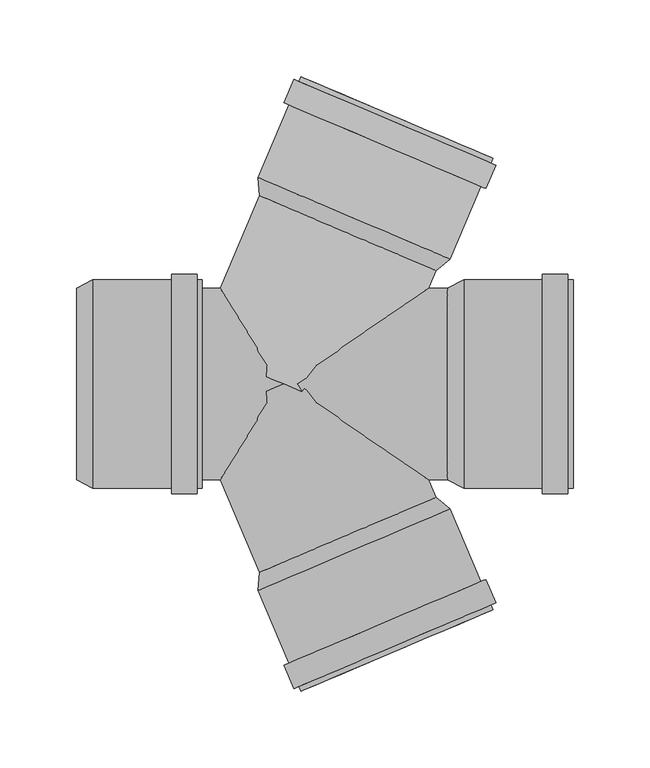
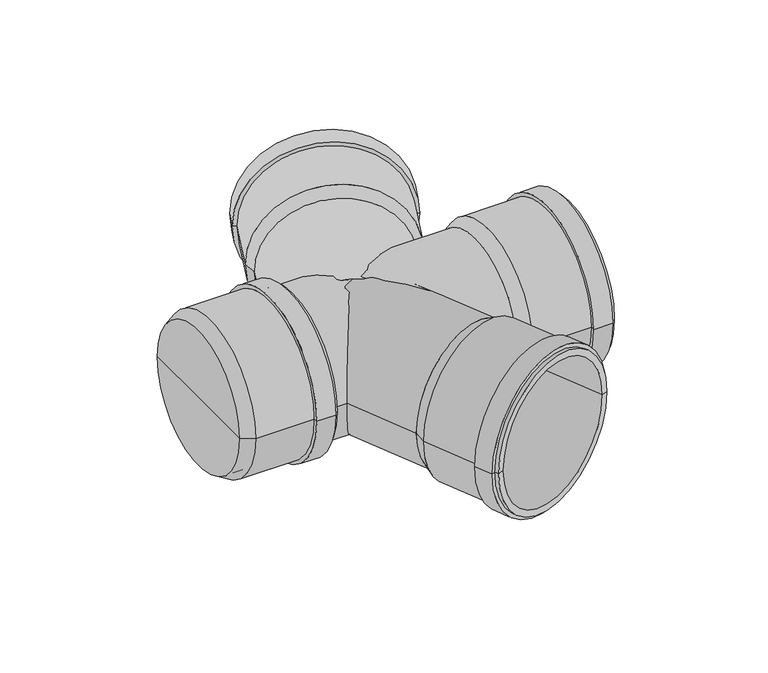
"""IFC4 building model written with IfcOpenShell, lengths in millimetres: pipe fitting geometry, pf_HTDA : pf_HTDA."""

from ifc_helpers import new_model, si_unit, point, frame, origin, origin_2d, place, context, project, spatial, polyline, circle_curve, trimmed, segment, composite_curve, outline, extrude, source, transform, mapped, element, save
from ifc_brep_helpers import plane_surface, cylinder_surface, revolved_surface, advanced_brep


def pipe_fitting_2327c108(model_context):
    return source(origin(), model_context, "Body", "SolidModel", [
        advanced_brep(
        [(99.300711, 73.9812733, 0.0), (-15.7623957, 122.8226644, 0.0), (-16.814546, 134.6760596, 0.0), (108.558215, 81.4584799, 0.0), (41.7691576, 98.4019688, 0.0), (136.4954907, 147.274577, 0.0), (11.1227297, 200.4921567, 0.0), (16.2775568, 198.3040623, 0.0), (131.3406635, 149.4626713, 0.0), (135.1670049, 144.1448605, 0.0), (9.7942438, 197.3624402, 0.0), (138.2967214, 142.8163746, 0.0), (6.6645273, 198.690926, 0.0), (131.8105846, 127.5359941, 0.0), (0.1783906, 183.4105454, 0.0), (128.6808681, 128.8644799, 0.0), (3.3081071, 182.0820596, 0.0), (103.4033878, 83.6465743, 0.0), (-11.6597189, 132.4879653, 0.0), (45.8718345, 108.0672698, 0.0)],
        [
            (0, 1, circle_curve(frame((41.7691576, 98.4019688, 0.0), z_axis=(0.39073112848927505, 0.9205048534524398, 0.0), x_axis=(-0.9205048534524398, 0.39073112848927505, 0.0)), 62.5)),
            (1, 2),
            (2, 3, circle_curve(frame((45.8718345, 108.0672698, 0.0), z_axis=(-0.39073112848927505, -0.9205048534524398, 0.0), x_axis=(-0.9205048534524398, 0.39073112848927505, 0.0)), 68.1)),
            (3, 0),
            (1, 0, circle_curve(frame((41.7691576, 98.4019688, 0.0), z_axis=(0.39073112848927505, 0.9205048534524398, 0.0), x_axis=(-0.9205048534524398, 0.39073112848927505, 0.0)), 62.5)),
            (3, 2, circle_curve(frame((45.8718345, 108.0672698, 0.0), z_axis=(-0.39073112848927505, -0.9205048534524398, 0.0), x_axis=(-0.9205048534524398, 0.39073112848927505, 0.0)), 68.1)),
            (4, 1),
            (0, 4),
            (5, 6, circle_curve(frame((73.8091102, 173.8833668, 0.0), z_axis=(0.39073112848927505, 0.9205048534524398, 0.0), x_axis=(-0.9205048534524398, 0.39073112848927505, 0.0)), 68.1)),
            (6, 7),
            (7, 8, circle_curve(frame((73.8091102, 173.8833668, 0.0), z_axis=(-0.39073112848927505, -0.9205048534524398, 0.0), x_axis=(-0.9205048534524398, 0.39073112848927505, 0.0)), 62.5)),
            (8, 5),
            (6, 5, circle_curve(frame((73.8091102, 173.8833668, 0.0), z_axis=(0.39073112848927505, 0.9205048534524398, 0.0), x_axis=(-0.9205048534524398, 0.39073112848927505, 0.0)), 68.1)),
            (8, 7, circle_curve(frame((73.8091102, 173.8833668, 0.0), z_axis=(-0.39073112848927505, -0.9205048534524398, 0.0), x_axis=(-0.9205048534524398, 0.39073112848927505, 0.0)), 62.5)),
            (9, 10, circle_curve(frame((72.4806243, 170.7536503, 0.0), z_axis=(0.39073112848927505, 0.9205048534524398, 0.0), x_axis=(-0.9205048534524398, 0.39073112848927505, 0.0)), 68.1)),
            (10, 6),
            (5, 9),
            (10, 9, circle_curve(frame((72.4806243, 170.7536503, 0.0), z_axis=(0.39073112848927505, 0.9205048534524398, 0.0), x_axis=(-0.9205048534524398, 0.39073112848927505, 0.0)), 68.1)),
            (11, 12, circle_curve(frame((72.4806243, 170.7536503, 0.0), z_axis=(0.39073112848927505, 0.9205048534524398, 0.0), x_axis=(-0.9205048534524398, 0.39073112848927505, 0.0)), 71.5)),
            (12, 10),
            (9, 11),
            (12, 11, circle_curve(frame((72.4806243, 170.7536503, 0.0), z_axis=(0.39073112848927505, 0.9205048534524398, 0.0), x_axis=(-0.9205048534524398, 0.39073112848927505, 0.0)), 71.5)),
            (13, 14, circle_curve(frame((65.9944876, 155.4732697, 0.0), z_axis=(0.39073112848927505, 0.9205048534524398, 0.0), x_axis=(-0.9205048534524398, 0.39073112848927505, 0.0)), 71.5)),
            (14, 12),
            (11, 13),
            (14, 13, circle_curve(frame((65.9944876, 155.4732697, 0.0), z_axis=(0.39073112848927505, 0.9205048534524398, 0.0), x_axis=(-0.9205048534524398, 0.39073112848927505, 0.0)), 71.5)),
            (15, 16, circle_curve(frame((65.9944876, 155.4732697, 0.0), z_axis=(0.39073112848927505, 0.9205048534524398, 0.0), x_axis=(-0.9205048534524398, 0.39073112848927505, 0.0)), 68.1)),
            (16, 14),
            (13, 15),
            (16, 15, circle_curve(frame((65.9944876, 155.4732697, 0.0), z_axis=(0.39073112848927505, 0.9205048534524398, 0.0), x_axis=(-0.9205048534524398, 0.39073112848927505, 0.0)), 68.1)),
            (2, 16),
            (15, 3),
            (17, 18, circle_curve(frame((45.8718345, 108.0672698, 0.0), z_axis=(0.39073112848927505, 0.9205048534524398, 0.0), x_axis=(-0.9205048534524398, 0.39073112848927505, 0.0)), 62.5)),
            (18, 19),
            (19, 17),
            (18, 17, circle_curve(frame((45.8718345, 108.0672698, 0.0), z_axis=(0.39073112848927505, 0.9205048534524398, 0.0), x_axis=(-0.9205048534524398, 0.39073112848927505, 0.0)), 62.5)),
            (7, 18),
            (17, 8),
        ],
        [
            revolved_surface(polyline([(-16.814546, 134.6760596, 0.0), (-15.7623957, 122.8226644, 0.0)]), (41.7691576, 98.4019688, 0.0), (-0.39073112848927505, -0.9205048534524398, 0.0)),
            plane_surface(frame((41.7691576, 98.4019688, 0.0), z_axis=(-0.39073112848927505, -0.9205048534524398, 0.0), x_axis=(-0.9205048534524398, 0.39073112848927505, 0.0))),
            plane_surface(frame((73.8091102, 173.8833668, 0.0), z_axis=(0.39073112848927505, 0.9205048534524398, 0.0), x_axis=(-0.9205048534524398, 0.39073112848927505, 0.0))),
            cylinder_surface(frame((41.7691576, 98.4019688, 0.0), z_axis=(-0.39073112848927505, -0.9205048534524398, 0.0), x_axis=(-0.9205048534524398, 0.39073112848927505, 0.0)), 68.1),
            plane_surface(frame((72.4806243, 170.7536503, 0.0), z_axis=(0.39073112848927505, 0.9205048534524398, 0.0), x_axis=(-0.9205048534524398, 0.39073112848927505, 0.0))),
            cylinder_surface(frame((41.7691576, 98.4019688, 0.0), z_axis=(-0.39073112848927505, -0.9205048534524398, 0.0), x_axis=(-0.9205048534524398, 0.39073112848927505, 0.0)), 71.5),
            plane_surface(frame((65.9944876, 155.4732697, 0.0), z_axis=(-0.39073112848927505, -0.9205048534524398, 0.0), x_axis=(-0.9205048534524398, 0.39073112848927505, 0.0))),
            plane_surface(frame((45.8718345, 108.0672698, 0.0), z_axis=(0.39073112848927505, 0.9205048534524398, 0.0), x_axis=(-0.9205048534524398, 0.39073112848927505, 0.0))),
            revolved_surface(polyline([(-11.659718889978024, 132.48796529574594, 0.0), (16.27755681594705, 198.30406236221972, 0.0)]), (41.7691576, 98.4019688, 0.0), (-0.39073112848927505, -0.9205048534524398, 0.0)),
        ],
        [
            (0, [[1, 2, 3, 4]]),
            (0, [[5, -4, 6, -2]]),
            (1, [[7, -1, 8]]),
            (1, [[-8, -5, -7]]),
            (2, [[9, 10, 11, 12]]),
            (2, [[13, -12, 14, -10]]),
            (3, [[15, 16, -9, 17]]),
            (3, [[18, -17, -13, -16]]),
            (4, [[19, 20, -15, 21]]),
            (4, [[22, -21, -18, -20]]),
            (5, [[23, 24, -19, 25]]),
            (5, [[26, -25, -22, -24]]),
            (6, [[27, 28, -23, 29]]),
            (6, [[30, -29, -26, -28]]),
            (3, [[-3, 31, -27, 32]]),
            (3, [[-6, -32, -30, -31]]),
            (7, [[33, 34, 35]]),
            (7, [[36, -35, -34]]),
            (8, [[-11, 37, -33, 38]]),
            (8, [[-14, -38, -36, -37]]),
        ],
    ),
        advanced_brep(
        [(-15.7623957, -122.8226644, 0.0), (99.300711, -73.9812733, 0.0), (108.558215, -81.4584799, 0.0), (-16.814546, -134.6760596, 0.0), (41.7691576, -98.4019688, 0.0), (11.1227297, -200.4921567, 0.0), (136.4954907, -147.274577, 0.0), (131.3406635, -149.4626713, 0.0), (16.2775568, -198.3040623, 0.0), (9.7942438, -197.3624402, 0.0), (135.1670049, -144.1448605, 0.0), (6.6645273, -198.690926, 0.0), (138.2967214, -142.8163746, 0.0), (0.1783906, -183.4105454, 0.0), (131.8105846, -127.5359941, 0.0), (3.3081071, -182.0820596, 0.0), (128.6808681, -128.8644799, 0.0), (-11.6597189, -132.4879653, 0.0), (103.4033878, -83.6465743, 0.0), (45.8718345, -108.0672698, 0.0)],
        [
            (0, 1, circle_curve(frame((41.7691576, -98.4019688, 0.0), z_axis=(0.3907311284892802, -0.9205048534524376, 0.0), x_axis=(0.9205048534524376, 0.3907311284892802, 0.0)), 62.5)),
            (1, 2),
            (2, 3, circle_curve(frame((45.8718345, -108.0672698, 0.0), z_axis=(-0.3907311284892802, 0.9205048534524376, 0.0), x_axis=(0.9205048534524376, 0.3907311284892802, 0.0)), 68.1)),
            (3, 0),
            (1, 0, circle_curve(frame((41.7691576, -98.4019688, 0.0), z_axis=(0.3907311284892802, -0.9205048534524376, 0.0), x_axis=(0.9205048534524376, 0.3907311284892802, 0.0)), 62.5)),
            (3, 2, circle_curve(frame((45.8718345, -108.0672698, 0.0), z_axis=(-0.3907311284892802, 0.9205048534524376, 0.0), x_axis=(0.9205048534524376, 0.3907311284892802, 0.0)), 68.1)),
            (4, 1),
            (0, 4),
            (5, 6, circle_curve(frame((73.8091102, -173.8833668, 0.0), z_axis=(0.3907311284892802, -0.9205048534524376, 0.0), x_axis=(0.9205048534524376, 0.3907311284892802, 0.0)), 68.1)),
            (6, 7),
            (7, 8, circle_curve(frame((73.8091102, -173.8833668, 0.0), z_axis=(-0.3907311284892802, 0.9205048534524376, 0.0), x_axis=(0.9205048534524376, 0.3907311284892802, 0.0)), 62.5)),
            (8, 5),
            (6, 5, circle_curve(frame((73.8091102, -173.8833668, 0.0), z_axis=(0.3907311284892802, -0.9205048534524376, 0.0), x_axis=(0.9205048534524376, 0.3907311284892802, 0.0)), 68.1)),
            (8, 7, circle_curve(frame((73.8091102, -173.8833668, 0.0), z_axis=(-0.3907311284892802, 0.9205048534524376, 0.0), x_axis=(0.9205048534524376, 0.3907311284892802, 0.0)), 62.5)),
            (9, 10, circle_curve(frame((72.4806243, -170.7536503, 0.0), z_axis=(0.3907311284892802, -0.9205048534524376, 0.0), x_axis=(0.9205048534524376, 0.3907311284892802, 0.0)), 68.1)),
            (10, 6),
            (5, 9),
            (10, 9, circle_curve(frame((72.4806243, -170.7536503, 0.0), z_axis=(0.3907311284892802, -0.9205048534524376, 0.0), x_axis=(0.9205048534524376, 0.3907311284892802, 0.0)), 68.1)),
            (11, 12, circle_curve(frame((72.4806243, -170.7536503, 0.0), z_axis=(0.3907311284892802, -0.9205048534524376, 0.0), x_axis=(0.9205048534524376, 0.3907311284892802, 0.0)), 71.5)),
            (12, 10),
            (9, 11),
            (12, 11, circle_curve(frame((72.4806243, -170.7536503, 0.0), z_axis=(0.3907311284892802, -0.9205048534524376, 0.0), x_axis=(0.9205048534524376, 0.3907311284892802, 0.0)), 71.5)),
            (13, 14, circle_curve(frame((65.9944876, -155.4732697, 0.0), z_axis=(0.3907311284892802, -0.9205048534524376, 0.0), x_axis=(0.9205048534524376, 0.3907311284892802, 0.0)), 71.5)),
            (14, 12),
            (11, 13),
            (14, 13, circle_curve(frame((65.9944876, -155.4732697, 0.0), z_axis=(0.3907311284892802, -0.9205048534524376, 0.0), x_axis=(0.9205048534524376, 0.3907311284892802, 0.0)), 71.5)),
            (15, 16, circle_curve(frame((65.9944876, -155.4732697, 0.0), z_axis=(0.3907311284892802, -0.9205048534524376, 0.0), x_axis=(0.9205048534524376, 0.3907311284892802, 0.0)), 68.1)),
            (16, 14),
            (13, 15),
            (16, 15, circle_curve(frame((65.9944876, -155.4732697, 0.0), z_axis=(0.3907311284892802, -0.9205048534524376, 0.0), x_axis=(0.9205048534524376, 0.3907311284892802, 0.0)), 68.1)),
            (2, 16),
            (15, 3),
            (17, 18, circle_curve(frame((45.8718345, -108.0672698, 0.0), z_axis=(0.3907311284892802, -0.9205048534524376, 0.0), x_axis=(0.9205048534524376, 0.3907311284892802, 0.0)), 62.5)),
            (18, 19),
            (19, 17),
            (18, 17, circle_curve(frame((45.8718345, -108.0672698, 0.0), z_axis=(0.3907311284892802, -0.9205048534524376, 0.0), x_axis=(0.9205048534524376, 0.3907311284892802, 0.0)), 62.5)),
            (7, 18),
            (17, 8),
        ],
        [
            revolved_surface(polyline([(108.558215, -81.4584799, 0.0), (99.300711, -73.9812733, 0.0)]), (41.7691576, -98.4019688, 0.0), (-0.3907311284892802, 0.9205048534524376, 0.0)),
            plane_surface(frame((41.7691576, -98.4019688, 0.0), z_axis=(-0.3907311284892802, 0.9205048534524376, 0.0), x_axis=(0.9205048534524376, 0.3907311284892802, 0.0))),
            plane_surface(frame((73.8091102, -173.8833668, 0.0), z_axis=(0.3907311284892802, -0.9205048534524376, 0.0), x_axis=(0.9205048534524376, 0.3907311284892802, 0.0))),
            cylinder_surface(frame((41.7691576, -98.4019688, 0.0), z_axis=(-0.3907311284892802, 0.9205048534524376, 0.0), x_axis=(0.9205048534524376, 0.3907311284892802, 0.0)), 68.1),
            plane_surface(frame((72.4806243, -170.7536503, 0.0), z_axis=(0.3907311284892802, -0.9205048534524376, 0.0), x_axis=(0.9205048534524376, 0.3907311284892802, 0.0))),
            cylinder_surface(frame((41.7691576, -98.4019688, 0.0), z_axis=(-0.3907311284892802, 0.9205048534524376, 0.0), x_axis=(0.9205048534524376, 0.3907311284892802, 0.0)), 71.5),
            plane_surface(frame((65.9944876, -155.4732697, 0.0), z_axis=(-0.3907311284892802, 0.9205048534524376, 0.0), x_axis=(0.9205048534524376, 0.3907311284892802, 0.0))),
            plane_surface(frame((45.8718345, -108.0672698, 0.0), z_axis=(0.3907311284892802, -0.9205048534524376, 0.0), x_axis=(0.9205048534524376, 0.3907311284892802, 0.0))),
            revolved_surface(polyline([(103.40338779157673, -83.6465742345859, 0.0), (131.34066349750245, -149.46267130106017, 0.0)]), (41.7691576, -98.4019688, 0.0), (-0.3907311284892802, 0.9205048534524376, 0.0)),
        ],
        [
            (0, [[1, 2, 3, 4]]),
            (0, [[5, -4, 6, -2]]),
            (1, [[7, -1, 8]]),
            (1, [[-8, -5, -7]]),
            (2, [[9, 10, 11, 12]]),
            (2, [[13, -12, 14, -10]]),
            (3, [[15, 16, -9, 17]]),
            (3, [[18, -17, -13, -16]]),
            (4, [[19, 20, -15, 21]]),
            (4, [[22, -21, -18, -20]]),
            (5, [[23, 24, -19, 25]]),
            (5, [[26, -25, -22, -24]]),
            (6, [[27, 28, -23, 29]]),
            (6, [[30, -29, -26, -28]]),
            (3, [[-3, 31, -27, 32]]),
            (3, [[-6, -32, -30, -31]]),
            (7, [[33, 34, 35]]),
            (7, [[36, -35, -34]]),
            (8, [[-11, 37, -33, 38]]),
            (8, [[-14, -38, -36, -37]]),
        ],
    ),
        advanced_brep(
        [(106.9, -62.5, 0.0), (106.9, 62.5, 0.0), (117.4, 68.1, 0.0), (117.4, -68.1, 0.0), (106.9, 0.0, 0.0), (188.9, -68.1, 0.0), (188.9, 68.1, 0.0), (188.9, 62.5, 0.0), (188.9, -62.5, 0.0), (185.5, -68.1, 0.0), (185.5, 68.1, 0.0), (185.5, -71.5, 0.0), (185.5, 71.5, 0.0), (168.9, -71.5, 0.0), (168.9, 71.5, 0.0), (168.9, -68.1, 0.0), (168.9, 68.1, 0.0), (117.4, -62.5, 0.0), (117.4, 62.5, 0.0), (117.4, 0.0, 0.0)],
        [
            (0, 1, circle_curve(frame((106.9, 0.0, 0.0), z_axis=(1.0, 0.0, 0.0), x_axis=(0.0, 1.0, 0.0)), 62.5)),
            (1, 2),
            (2, 3, circle_curve(frame((117.4, 0.0, 0.0), z_axis=(-1.0, 0.0, 0.0), x_axis=(0.0, 1.0, 0.0)), 68.1)),
            (3, 0),
            (1, 0, circle_curve(frame((106.9, 0.0, 0.0), z_axis=(1.0, 0.0, 0.0), x_axis=(0.0, 1.0, 0.0)), 62.5)),
            (3, 2, circle_curve(frame((117.4, 0.0, 0.0), z_axis=(-1.0, 0.0, 0.0), x_axis=(0.0, 1.0, 0.0)), 68.1)),
            (4, 1),
            (0, 4),
            (5, 6, circle_curve(frame((188.9, 0.0, 0.0), z_axis=(1.0, 0.0, 0.0), x_axis=(0.0, 1.0, 0.0)), 68.1)),
            (6, 7),
            (7, 8, circle_curve(frame((188.9, 0.0, 0.0), z_axis=(-1.0, 0.0, 0.0), x_axis=(0.0, 1.0, 0.0)), 62.5)),
            (8, 5),
            (6, 5, circle_curve(frame((188.9, 0.0, 0.0), z_axis=(1.0, 0.0, 0.0), x_axis=(0.0, 1.0, 0.0)), 68.1)),
            (8, 7, circle_curve(frame((188.9, 0.0, 0.0), z_axis=(-1.0, 0.0, 0.0), x_axis=(0.0, 1.0, 0.0)), 62.5)),
            (9, 10, circle_curve(frame((185.5, 0.0, 0.0), z_axis=(1.0, 0.0, 0.0), x_axis=(0.0, 1.0, 0.0)), 68.1)),
            (10, 6),
            (5, 9),
            (10, 9, circle_curve(frame((185.5, 0.0, 0.0), z_axis=(1.0, 0.0, 0.0), x_axis=(0.0, 1.0, 0.0)), 68.1)),
            (11, 12, circle_curve(frame((185.5, 0.0, 0.0), z_axis=(1.0, 0.0, 0.0), x_axis=(0.0, 1.0, 0.0)), 71.5)),
            (12, 10),
            (9, 11),
            (12, 11, circle_curve(frame((185.5, 0.0, 0.0), z_axis=(1.0, 0.0, 0.0), x_axis=(0.0, 1.0, 0.0)), 71.5)),
            (13, 14, circle_curve(frame((168.9, 0.0, 0.0), z_axis=(1.0, 0.0, 0.0), x_axis=(0.0, 1.0, 0.0)), 71.5)),
            (14, 12),
            (11, 13),
            (14, 13, circle_curve(frame((168.9, 0.0, 0.0), z_axis=(1.0, 0.0, 0.0), x_axis=(0.0, 1.0, 0.0)), 71.5)),
            (15, 16, circle_curve(frame((168.9, 0.0, 0.0), z_axis=(1.0, 0.0, 0.0), x_axis=(0.0, 1.0, 0.0)), 68.1)),
            (16, 14),
            (13, 15),
            (16, 15, circle_curve(frame((168.9, 0.0, 0.0), z_axis=(1.0, 0.0, 0.0), x_axis=(0.0, 1.0, 0.0)), 68.1)),
            (2, 16),
            (15, 3),
            (17, 18, circle_curve(frame((117.4, 0.0, 0.0), z_axis=(1.0, 0.0, 0.0), x_axis=(0.0, 1.0, 0.0)), 62.5)),
            (18, 19),
            (19, 17),
            (18, 17, circle_curve(frame((117.4, 0.0, 0.0), z_axis=(1.0, 0.0, 0.0), x_axis=(0.0, 1.0, 0.0)), 62.5)),
            (7, 18),
            (17, 8),
        ],
        [
            revolved_surface(polyline([(117.4, 68.1, 0.0), (106.9, 62.5, 0.0)]), (106.9, 0.0, 0.0), (-1.0, 0.0, 0.0)),
            plane_surface(frame((106.9, 0.0, 0.0), z_axis=(-1.0, 0.0, 0.0), x_axis=(0.0, 1.0, 0.0))),
            plane_surface(frame((188.9, 0.0, 0.0), z_axis=(1.0, 0.0, 0.0), x_axis=(0.0, 1.0, 0.0))),
            cylinder_surface(frame((106.9, 0.0, 0.0), z_axis=(-1.0, 0.0, 0.0), x_axis=(0.0, 1.0, 0.0)), 68.1),
            plane_surface(frame((185.5, 0.0, 0.0), z_axis=(1.0, 0.0, 0.0), x_axis=(0.0, 1.0, 0.0))),
            cylinder_surface(frame((106.9, 0.0, 0.0), z_axis=(-1.0, 0.0, 0.0), x_axis=(0.0, 1.0, 0.0)), 71.5),
            plane_surface(frame((168.9, 0.0, 0.0), z_axis=(-1.0, 0.0, 0.0), x_axis=(0.0, 1.0, 0.0))),
            plane_surface(frame((117.4, 0.0, 0.0), z_axis=(1.0, 0.0, 0.0), x_axis=(0.0, 1.0, 0.0))),
            revolved_surface(polyline([(117.4, 62.5, 0.0), (188.9, 62.5, 0.0)]), (106.9, 0.0, 0.0), (-1.0, 0.0, 0.0)),
        ],
        [
            (0, [[1, 2, 3, 4]]),
            (0, [[5, -4, 6, -2]]),
            (1, [[7, -1, 8]]),
            (1, [[-8, -5, -7]]),
            (2, [[9, 10, 11, 12]]),
            (2, [[13, -12, 14, -10]]),
            (3, [[15, 16, -9, 17]]),
            (3, [[18, -17, -13, -16]]),
            (4, [[19, 20, -15, 21]]),
            (4, [[22, -21, -18, -20]]),
            (5, [[23, 24, -19, 25]]),
            (5, [[26, -25, -22, -24]]),
            (6, [[27, 28, -23, 29]]),
            (6, [[30, -29, -26, -28]]),
            (3, [[-3, 31, -27, 32]]),
            (3, [[-6, -32, -30, -31]]),
            (7, [[33, 34, 35]]),
            (7, [[36, -35, -34]]),
            (8, [[-11, 37, -33, 38]]),
            (8, [[-14, -38, -36, -37]]),
        ],
    ),
        advanced_brep(
        [(-135.3, -62.5, 0.0), (-135.3, 62.5, 0.0), (-124.8, 68.1, 0.0), (-124.8, -68.1, 0.0), (-135.3, 0.0, 0.0), (-53.3, -68.1, 0.0), (-53.3, 68.1, 0.0), (-53.3, 62.5, 0.0), (-53.3, -62.5, 0.0), (-56.7, -68.1, 0.0), (-56.7, 68.1, 0.0), (-56.7, -71.5, 0.0), (-56.7, 71.5, 0.0), (-73.3, -71.5, 0.0), (-73.3, 71.5, 0.0), (-73.3, -68.1, 0.0), (-73.3, 68.1, 0.0), (-124.8, -62.5, 0.0), (-124.8, 62.5, 0.0), (-124.8, 0.0, 0.0)],
        [
            (0, 1, circle_curve(frame((-135.3, 0.0, 0.0), z_axis=(1.0, 0.0, 0.0), x_axis=(0.0, 1.0, 0.0)), 62.5)),
            (1, 2),
            (2, 3, circle_curve(frame((-124.8, 0.0, 0.0), z_axis=(-1.0, 0.0, 0.0), x_axis=(0.0, 1.0, 0.0)), 68.1)),
            (3, 0),
            (1, 0, circle_curve(frame((-135.3, 0.0, 0.0), z_axis=(1.0, 0.0, 0.0), x_axis=(0.0, 1.0, 0.0)), 62.5)),
            (3, 2, circle_curve(frame((-124.8, 0.0, 0.0), z_axis=(-1.0, 0.0, 0.0), x_axis=(0.0, 1.0, 0.0)), 68.1)),
            (4, 1),
            (0, 4),
            (5, 6, circle_curve(frame((-53.3, 0.0, 0.0), z_axis=(1.0, 0.0, 0.0), x_axis=(0.0, 1.0, 0.0)), 68.1)),
            (6, 7),
            (7, 8, circle_curve(frame((-53.3, 0.0, 0.0), z_axis=(-1.0, 0.0, 0.0), x_axis=(0.0, 1.0, 0.0)), 62.5)),
            (8, 5),
            (6, 5, circle_curve(frame((-53.3, 0.0, 0.0), z_axis=(1.0, 0.0, 0.0), x_axis=(0.0, 1.0, 0.0)), 68.1)),
            (8, 7, circle_curve(frame((-53.3, 0.0, 0.0), z_axis=(-1.0, 0.0, 0.0), x_axis=(0.0, 1.0, 0.0)), 62.5)),
            (9, 10, circle_curve(frame((-56.7, 0.0, 0.0), z_axis=(1.0, 0.0, 0.0), x_axis=(0.0, 1.0, 0.0)), 68.1)),
            (10, 6),
            (5, 9),
            (10, 9, circle_curve(frame((-56.7, 0.0, 0.0), z_axis=(1.0, 0.0, 0.0), x_axis=(0.0, 1.0, 0.0)), 68.1)),
            (11, 12, circle_curve(frame((-56.7, 0.0, 0.0), z_axis=(1.0, 0.0, 0.0), x_axis=(0.0, 1.0, 0.0)), 71.5)),
            (12, 10),
            (9, 11),
            (12, 11, circle_curve(frame((-56.7, 0.0, 0.0), z_axis=(1.0, 0.0, 0.0), x_axis=(0.0, 1.0, 0.0)), 71.5)),
            (13, 14, circle_curve(frame((-73.3, 0.0, 0.0), z_axis=(1.0, 0.0, 0.0), x_axis=(0.0, 1.0, 0.0)), 71.5)),
            (14, 12),
            (11, 13),
            (14, 13, circle_curve(frame((-73.3, 0.0, 0.0), z_axis=(1.0, 0.0, 0.0), x_axis=(0.0, 1.0, 0.0)), 71.5)),
            (15, 16, circle_curve(frame((-73.3, 0.0, 0.0), z_axis=(1.0, 0.0, 0.0), x_axis=(0.0, 1.0, 0.0)), 68.1)),
            (16, 14),
            (13, 15),
            (16, 15, circle_curve(frame((-73.3, 0.0, 0.0), z_axis=(1.0, 0.0, 0.0), x_axis=(0.0, 1.0, 0.0)), 68.1)),
            (2, 16),
            (15, 3),
            (17, 18, circle_curve(frame((-124.8, 0.0, 0.0), z_axis=(1.0, 0.0, 0.0), x_axis=(0.0, 1.0, 0.0)), 62.5)),
            (18, 19),
            (19, 17),
            (18, 17, circle_curve(frame((-124.8, 0.0, 0.0), z_axis=(1.0, 0.0, 0.0), x_axis=(0.0, 1.0, 0.0)), 62.5)),
            (7, 18),
            (17, 8),
        ],
        [
            revolved_surface(polyline([(-124.8, 68.1, 0.0), (-135.3, 62.5, 0.0)]), (-135.3, 0.0, 0.0), (-1.0, 0.0, 0.0)),
            plane_surface(frame((-135.3, 0.0, 0.0), z_axis=(-1.0, 0.0, 0.0), x_axis=(0.0, 1.0, 0.0))),
            plane_surface(frame((-53.3, 0.0, 0.0), z_axis=(1.0, 0.0, 0.0), x_axis=(0.0, 1.0, 0.0))),
            cylinder_surface(frame((-135.3, 0.0, 0.0), z_axis=(-1.0, 0.0, 0.0), x_axis=(0.0, 1.0, 0.0)), 68.1),
            plane_surface(frame((-56.7, 0.0, 0.0), z_axis=(1.0, 0.0, 0.0), x_axis=(0.0, 1.0, 0.0))),
            cylinder_surface(frame((-135.3, 0.0, 0.0), z_axis=(-1.0, 0.0, 0.0), x_axis=(0.0, 1.0, 0.0)), 71.5),
            plane_surface(frame((-73.3, 0.0, 0.0), z_axis=(-1.0, 0.0, 0.0), x_axis=(0.0, 1.0, 0.0))),
            plane_surface(frame((-124.8, 0.0, 0.0), z_axis=(1.0, 0.0, 0.0), x_axis=(0.0, 1.0, 0.0))),
            revolved_surface(polyline([(-124.8, 62.5, 0.0), (-53.3, 62.5, 0.0)]), (-135.3, 0.0, 0.0), (-1.0, 0.0, 0.0)),
        ],
        [
            (0, [[1, 2, 3, 4]]),
            (0, [[5, -4, 6, -2]]),
            (1, [[7, -1, 8]]),
            (1, [[-8, -5, -7]]),
            (2, [[9, 10, 11, 12]]),
            (2, [[13, -12, 14, -10]]),
            (3, [[15, 16, -9, 17]]),
            (3, [[18, -17, -13, -16]]),
            (4, [[19, 20, -15, 21]]),
            (4, [[22, -21, -18, -20]]),
            (5, [[23, 24, -19, 25]]),
            (5, [[26, -25, -22, -24]]),
            (6, [[27, 28, -23, 29]]),
            (6, [[30, -29, -26, -28]]),
            (3, [[-3, 31, -27, 32]]),
            (3, [[-6, -32, -30, -31]]),
            (7, [[33, 34, 35]]),
            (7, [[36, -35, -34]]),
            (8, [[-11, 37, -33, 38]]),
            (8, [[-14, -38, -36, -37]]),
        ],
    ),
        extrude(outline(composite_curve([segment(trimmed(circle_curve(origin_2d(), 62.5), [point((0.0, 62.5))], [point((0.0, -62.5))], False, "CARTESIAN"), True, "CONTINUOUS"), segment(trimmed(circle_curve(origin_2d(), 62.5), [point((0.0, -62.5))], [point((0.0, 62.5))], False, "CARTESIAN"), True, "CONTINUOUS")], self_intersect=False)), frame((0.0, 0.0, 0.0), z_axis=(0.39073112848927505, 0.9205048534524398, 0.0), x_axis=(0.0, 0.0, 1.0)), (0.0, 0.0, 1.0), 106.9),
        extrude(outline(composite_curve([segment(trimmed(circle_curve(origin_2d(), 62.5), [point((0.0, -62.5))], [point((0.0, 62.5))], False, "CARTESIAN"), True, "CONTINUOUS"), segment(trimmed(circle_curve(origin_2d(), 62.5), [point((0.0, 62.5))], [point((0.0, -62.5))], False, "CARTESIAN"), True, "CONTINUOUS")], self_intersect=False)), frame((41.7691576, -98.4019688, 0.0), z_axis=(-0.3907311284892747, 0.9205048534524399, 0.0), x_axis=(0.0, 0.0, 1.0)), (0.0, 0.0, 1.0), 106.9),
        extrude(outline(composite_curve([segment(trimmed(circle_curve(origin_2d(), 62.5), [point((-62.5, 0.0))], [point((62.5, 0.0))], False, "CARTESIAN"), True, "CONTINUOUS"), segment(trimmed(circle_curve(origin_2d(), 62.5), [point((62.5, 0.0))], [point((-62.5, 0.0))], False, "CARTESIAN"), True, "CONTINUOUS")], self_intersect=False)), frame((-124.8, 0.0, 0.0), z_axis=(1.0, 0.0, 0.0), x_axis=(0.0, 1.0, 0.0)), (0.0, 0.0, 1.0), 231.7),
    ])


if __name__ == "__main__":
    model = new_model("IFC4")
    model_context = context("Model", 3, world=origin())
    ifc_project = project(units=[si_unit("LENGTHUNIT", "METRE", prefix="MILLI")], contexts=[model_context])
    site = spatial("IfcSite", under=ifc_project)
    building = spatial("IfcBuilding", under=site)
    placement = place(None, origin())
    pipe_fitting_shape = pipe_fitting_2327c108(model_context)
    element("IfcPipeFitting", 1, ObjectType="pf_HTDA : pf_HTDA", at=placement, inside=building, context=model_context, shape_type="MappedRepresentation", body=[
        mapped(pipe_fitting_shape, transform((0.0, 0.0, 0.0), x_axis=(1.0, 0.0, 0.0), y_axis=(0.0, 1.0, 0.0), z_axis=(0.0, 0.0, 1.0))),
    ])
    save(model, "model.ifc")
